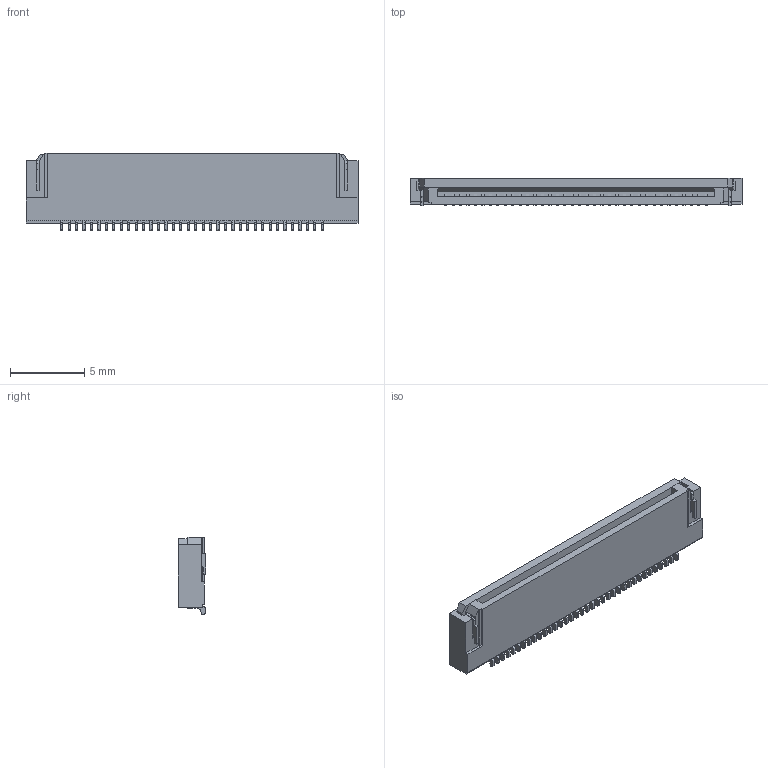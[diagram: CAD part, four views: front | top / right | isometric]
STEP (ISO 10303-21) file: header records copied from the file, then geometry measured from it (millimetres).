
FILE_DESCRIPTION((''),'2;1');
FILE_NAME('S-51540-023XX-XXX','2012-08-11T',('12104020'),(''),'PRO/ENGINEER BY PARAMETRIC TECHNOLOGY CORPORATION, 2011190','PRO/ENGINEER BY PARAMETRIC TECHNOLOGY CORPORATION, 2011190','');
FILE_SCHEMA(('CONFIG_CONTROL_DESIGN'));
Length unit declared in the file: millimetre
Products named in the file (1): S-51540-023XX-XXX
Bounding box: 22.3 x 1.85 x 5.2 mm (x, y, z)
Volume: 135.2 mm3; surface area: 555.5 mm2
Topology: 1 solids, 1 shells, 1534 faces, 5130 edges, 3634 vertices
Faces by surface type: plane 1025, cylinder 505, torus 4
Entity records: 57574 total; most frequent: CARTESIAN_POINT 10984, ORIENTED_EDGE 10260, DIRECTION 9668, EDGE_CURVE 5130, VERTEX_POINT 3634, VECTOR 3312, LINE 3312, AXIS2_PLACEMENT_3D 3178
